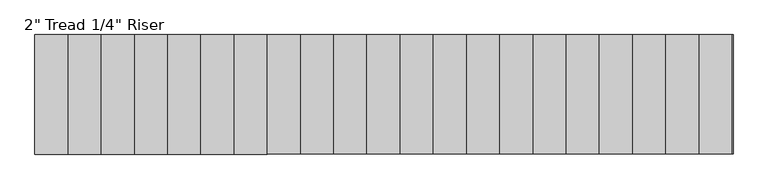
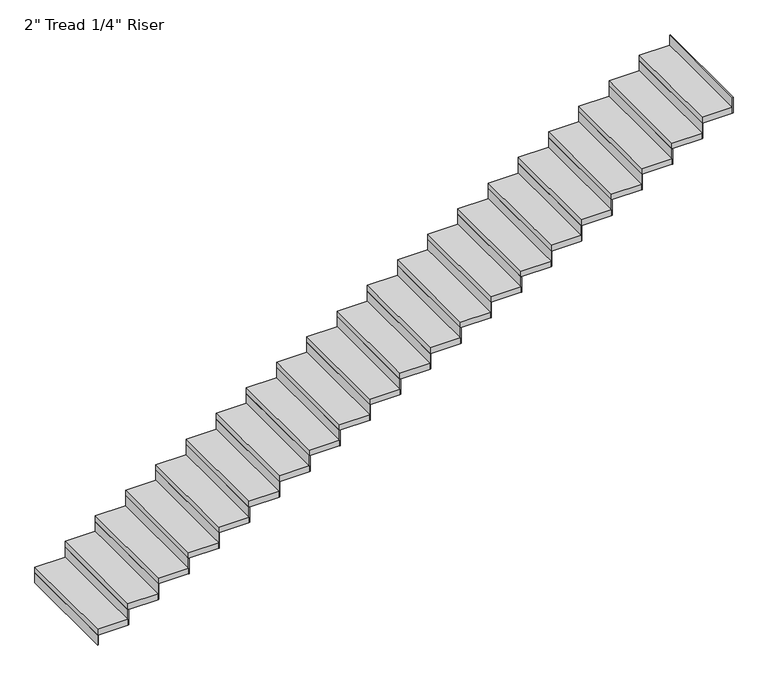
"""IFC4 building model written with IfcOpenShell, lengths in millimetres: stair flight geometry."""

from ifc_helpers import new_model, si_unit, frame, origin, origin_with_axes, place, context, project, spatial, polyline, outline, extrude, source, transform, mapped, element, save


def stair_flight_8bf837ec(model_context):
    return source(origin(), model_context, "Body", "SweptSolid", [
        extrude(outline(polyline([(10185.0667764, -52193.6426165), (10178.7167764, -52193.6426165), (10178.7167764, -51279.2426165), (10185.0667764, -51279.2426165), (10185.0667764, -52193.6426165)])), origin_with_axes(), (0.0, 0.0, 1.0), 87.7454545),
        extrude(outline(polyline([(10432.7167764, -51279.2426165), (10432.7167764, -52193.6426165), (10178.7167764, -52193.6426165), (10178.7167764, -51279.2426165), (10432.7167764, -51279.2426165)])), frame((0.0, 0.0, 87.7454545), z_axis=(0.0, 0.0, 1.0), x_axis=(1.0, 0.0, 0.0)), (0.0, 0.0, 1.0), 50.8),
        extrude(outline(polyline([(10439.0667764, -52193.6426165), (10432.7167764, -52193.6426165), (10432.7167764, -51279.2426165), (10439.0667764, -51279.2426165), (10439.0667764, -52193.6426165)])), frame((0.0, 0.0, 87.7454545), z_axis=(0.0, 0.0, 1.0), x_axis=(1.0, 0.0, 0.0)), (0.0, 0.0, 1.0), 138.5454545),
        extrude(outline(polyline([(10686.7167764, -51279.2426165), (10686.7167764, -52193.6426165), (10432.7167764, -52193.6426165), (10432.7167764, -51279.2426165), (10686.7167764, -51279.2426165)])), frame((0.0, 0.0, 226.2909091), z_axis=(0.0, 0.0, 1.0), x_axis=(1.0, 0.0, 0.0)), (0.0, 0.0, 1.0), 50.8),
        extrude(outline(polyline([(10693.0667764, -52193.6426165), (10686.7167764, -52193.6426165), (10686.7167764, -51279.2426165), (10693.0667764, -51279.2426165), (10693.0667764, -52193.6426165)])), frame((0.0, 0.0, 226.2909091), z_axis=(0.0, 0.0, 1.0), x_axis=(1.0, 0.0, 0.0)), (0.0, 0.0, 1.0), 138.5454545),
        extrude(outline(polyline([(10940.7167764, -51279.2426165), (10940.7167764, -52193.6426165), (10686.7167764, -52193.6426165), (10686.7167764, -51279.2426165), (10940.7167764, -51279.2426165)])), frame((0.0, 0.0, 364.8363636), z_axis=(0.0, 0.0, 1.0), x_axis=(1.0, 0.0, 0.0)), (0.0, 0.0, 1.0), 50.8),
        extrude(outline(polyline([(10947.0667764, -52193.6426165), (10940.7167764, -52193.6426165), (10940.7167764, -51279.2426165), (10947.0667764, -51279.2426165), (10947.0667764, -52193.6426165)])), frame((0.0, 0.0, 364.8363636), z_axis=(0.0, 0.0, 1.0), x_axis=(1.0, 0.0, 0.0)), (0.0, 0.0, 1.0), 138.5454545),
        extrude(outline(polyline([(11194.7167764, -51279.2426165), (11194.7167764, -52193.6426165), (10940.7167764, -52193.6426165), (10940.7167764, -51279.2426165), (11194.7167764, -51279.2426165)])), frame((0.0, 0.0, 503.3818182), z_axis=(0.0, 0.0, 1.0), x_axis=(1.0, 0.0, 0.0)), (0.0, 0.0, 1.0), 50.8),
        extrude(outline(polyline([(11201.0667764, -52193.6426165), (11194.7167764, -52193.6426165), (11194.7167764, -51279.2426165), (11201.0667764, -51279.2426165), (11201.0667764, -52193.6426165)])), frame((0.0, 0.0, 503.3818182), z_axis=(0.0, 0.0, 1.0), x_axis=(1.0, 0.0, 0.0)), (0.0, 0.0, 1.0), 138.5454545),
        extrude(outline(polyline([(11448.7167764, -51279.2426165), (11448.7167764, -52193.6426165), (11194.7167764, -52193.6426165), (11194.7167764, -51279.2426165), (11448.7167764, -51279.2426165)])), frame((0.0, 0.0, 641.9272727), z_axis=(0.0, 0.0, 1.0), x_axis=(1.0, 0.0, 0.0)), (0.0, 0.0, 1.0), 50.8),
        extrude(outline(polyline([(11455.0667764, -52193.6426165), (11448.7167764, -52193.6426165), (11448.7167764, -51279.2426165), (11455.0667764, -51279.2426165), (11455.0667764, -52193.6426165)])), frame((0.0, 0.0, 641.9272727), z_axis=(0.0, 0.0, 1.0), x_axis=(1.0, 0.0, 0.0)), (0.0, 0.0, 1.0), 138.5454545),
        extrude(outline(polyline([(11702.7167764, -51279.2426165), (11702.7167764, -52193.6426165), (11448.7167764, -52193.6426165), (11448.7167764, -51279.2426165), (11702.7167764, -51279.2426165)])), frame((0.0, 0.0, 780.4727273), z_axis=(0.0, 0.0, 1.0), x_axis=(1.0, 0.0, 0.0)), (0.0, 0.0, 1.0), 50.8),
        extrude(outline(polyline([(11709.0667764, -52193.6426165), (11702.7167764, -52193.6426165), (11702.7167764, -51279.2426165), (11709.0667764, -51279.2426165), (11709.0667764, -52193.6426165)])), frame((0.0, 0.0, 780.4727273), z_axis=(0.0, 0.0, 1.0), x_axis=(1.0, 0.0, 0.0)), (0.0, 0.0, 1.0), 138.5454545),
        extrude(outline(polyline([(11956.7167764, -51279.2426165), (11956.7167764, -52193.6426165), (11702.7167764, -52193.6426165), (11702.7167764, -51279.2426165), (11956.7167764, -51279.2426165)])), frame((0.0, 0.0, 919.0181818), z_axis=(0.0, 0.0, 1.0), x_axis=(1.0, 0.0, 0.0)), (0.0, 0.0, 1.0), 50.8),
        extrude(outline(polyline([(11963.0667764, -52193.6426165), (11956.7167764, -52193.6426165), (11956.7167764, -51279.2426165), (11963.0667764, -51279.2426165), (11963.0667764, -52193.6426165)])), frame((0.0, 0.0, 919.0181818), z_axis=(0.0, 0.0, 1.0), x_axis=(1.0, 0.0, 0.0)), (0.0, 0.0, 1.0), 138.5454545),
        extrude(outline(polyline([(12210.7167764, -51279.2426165), (12210.7167764, -52193.6426165), (11956.7167764, -52193.6426165), (11956.7167764, -51279.2426165), (12210.7167764, -51279.2426165)])), frame((0.0, 0.0, 1057.5636364), z_axis=(0.0, 0.0, 1.0), x_axis=(1.0, 0.0, 0.0)), (0.0, 0.0, 1.0), 50.8),
        extrude(outline(polyline([(12217.0667764, -52193.6426165), (12210.7167764, -52193.6426165), (12210.7167764, -51279.2426165), (12217.0667764, -51279.2426165), (12217.0667764, -52193.6426165)])), frame((0.0, 0.0, 1057.5636364), z_axis=(0.0, 0.0, 1.0), x_axis=(1.0, 0.0, 0.0)), (0.0, 0.0, 1.0), 138.5454545),
        extrude(outline(polyline([(12464.7167764, -51279.2426165), (12464.7167764, -52193.6426165), (12210.7167764, -52193.6426165), (12210.7167764, -51279.2426165), (12464.7167764, -51279.2426165)])), frame((0.0, 0.0, 1196.1090909), z_axis=(0.0, 0.0, 1.0), x_axis=(1.0, 0.0, 0.0)), (0.0, 0.0, 1.0), 50.8),
        extrude(outline(polyline([(12471.0667764, -52193.6426165), (12464.7167764, -52193.6426165), (12464.7167764, -51279.2426165), (12471.0667764, -51279.2426165), (12471.0667764, -52193.6426165)])), frame((0.0, 0.0, 1196.1090909), z_axis=(0.0, 0.0, 1.0), x_axis=(1.0, 0.0, 0.0)), (0.0, 0.0, 1.0), 138.5454545),
        extrude(outline(polyline([(12718.7167764, -51279.2426165), (12718.7167764, -52193.6426165), (12464.7167764, -52193.6426165), (12464.7167764, -51279.2426165), (12718.7167764, -51279.2426165)])), frame((0.0, 0.0, 1334.6545455), z_axis=(0.0, 0.0, 1.0), x_axis=(1.0, 0.0, 0.0)), (0.0, 0.0, 1.0), 50.8),
        extrude(outline(polyline([(12725.0667764, -52193.6426165), (12718.7167764, -52193.6426165), (12718.7167764, -51279.2426165), (12725.0667764, -51279.2426165), (12725.0667764, -52193.6426165)])), frame((0.0, 0.0, 1334.6545455), z_axis=(0.0, 0.0, 1.0), x_axis=(1.0, 0.0, 0.0)), (0.0, 0.0, 1.0), 138.5454545),
        extrude(outline(polyline([(12972.7167764, -51279.2426165), (12972.7167764, -52193.6426165), (12718.7167764, -52193.6426165), (12718.7167764, -51279.2426165), (12972.7167764, -51279.2426165)])), frame((0.0, 0.0, 1473.2), z_axis=(0.0, 0.0, 1.0), x_axis=(1.0, 0.0, 0.0)), (0.0, 0.0, 1.0), 50.8),
        extrude(outline(polyline([(12979.0667764, -52193.6426165), (12972.7167764, -52193.6426165), (12972.7167764, -51279.2426165), (12979.0667764, -51279.2426165), (12979.0667764, -52193.6426165)])), frame((0.0, 0.0, 1473.2), z_axis=(0.0, 0.0, 1.0), x_axis=(1.0, 0.0, 0.0)), (0.0, 0.0, 1.0), 138.5454545),
        extrude(outline(polyline([(13226.7167764, -51279.2426165), (13226.7167764, -52193.6426165), (12972.7167764, -52193.6426165), (12972.7167764, -51279.2426165), (13226.7167764, -51279.2426165)])), frame((0.0, 0.0, 1611.7454545), z_axis=(0.0, 0.0, 1.0), x_axis=(1.0, 0.0, 0.0)), (0.0, 0.0, 1.0), 50.8),
        extrude(outline(polyline([(13233.0667764, -52193.6426165), (13226.7167764, -52193.6426165), (13226.7167764, -51279.2426165), (13233.0667764, -51279.2426165), (13233.0667764, -52193.6426165)])), frame((0.0, 0.0, 1611.7454545), z_axis=(0.0, 0.0, 1.0), x_axis=(1.0, 0.0, 0.0)), (0.0, 0.0, 1.0), 138.5454545),
        extrude(outline(polyline([(13480.7167764, -51279.2426165), (13480.7167764, -52193.6426165), (13226.7167764, -52193.6426165), (13226.7167764, -51279.2426165), (13480.7167764, -51279.2426165)])), frame((0.0, 0.0, 1750.2909091), z_axis=(0.0, 0.0, 1.0), x_axis=(1.0, 0.0, 0.0)), (0.0, 0.0, 1.0), 50.8),
        extrude(outline(polyline([(13487.0667764, -52193.6426165), (13480.7167764, -52193.6426165), (13480.7167764, -51279.2426165), (13487.0667764, -51279.2426165), (13487.0667764, -52193.6426165)])), frame((0.0, 0.0, 1750.2909091), z_axis=(0.0, 0.0, 1.0), x_axis=(1.0, 0.0, 0.0)), (0.0, 0.0, 1.0), 138.5454545),
        extrude(outline(polyline([(13734.7167764, -51279.2426165), (13734.7167764, -52193.6426165), (13480.7167764, -52193.6426165), (13480.7167764, -51279.2426165), (13734.7167764, -51279.2426165)])), frame((0.0, 0.0, 1888.8363636), z_axis=(0.0, 0.0, 1.0), x_axis=(1.0, 0.0, 0.0)), (0.0, 0.0, 1.0), 50.8),
        extrude(outline(polyline([(13741.0667764, -52193.6426165), (13734.7167764, -52193.6426165), (13734.7167764, -51279.2426165), (13741.0667764, -51279.2426165), (13741.0667764, -52193.6426165)])), frame((0.0, 0.0, 1888.8363636), z_axis=(0.0, 0.0, 1.0), x_axis=(1.0, 0.0, 0.0)), (0.0, 0.0, 1.0), 138.5454545),
        extrude(outline(polyline([(13988.7167764, -51279.2426165), (13988.7167764, -52193.6426165), (13734.7167764, -52193.6426165), (13734.7167764, -51279.2426165), (13988.7167764, -51279.2426165)])), frame((0.0, 0.0, 2027.3818182), z_axis=(0.0, 0.0, 1.0), x_axis=(1.0, 0.0, 0.0)), (0.0, 0.0, 1.0), 50.8),
        extrude(outline(polyline([(13995.0667764, -52193.6426165), (13988.7167764, -52193.6426165), (13988.7167764, -51279.2426165), (13995.0667764, -51279.2426165), (13995.0667764, -52193.6426165)])), frame((0.0, 0.0, 2027.3818182), z_axis=(0.0, 0.0, 1.0), x_axis=(1.0, 0.0, 0.0)), (0.0, 0.0, 1.0), 138.5454545),
        extrude(outline(polyline([(14242.7167764, -51279.2426165), (14242.7167764, -52193.6426165), (13988.7167764, -52193.6426165), (13988.7167764, -51279.2426165), (14242.7167764, -51279.2426165)])), frame((0.0, 0.0, 2165.9272727), z_axis=(0.0, 0.0, 1.0), x_axis=(1.0, 0.0, 0.0)), (0.0, 0.0, 1.0), 50.8),
        extrude(outline(polyline([(14249.0667764, -52193.6426165), (14242.7167764, -52193.6426165), (14242.7167764, -51279.2426165), (14249.0667764, -51279.2426165), (14249.0667764, -52193.6426165)])), frame((0.0, 0.0, 2165.9272727), z_axis=(0.0, 0.0, 1.0), x_axis=(1.0, 0.0, 0.0)), (0.0, 0.0, 1.0), 138.5454545),
        extrude(outline(polyline([(14496.7167764, -51279.2426165), (14496.7167764, -52193.6426165), (14242.7167764, -52193.6426165), (14242.7167764, -51279.2426165), (14496.7167764, -51279.2426165)])), frame((0.0, 0.0, 2304.4727273), z_axis=(0.0, 0.0, 1.0), x_axis=(1.0, 0.0, 0.0)), (0.0, 0.0, 1.0), 50.8),
        extrude(outline(polyline([(14503.0667764, -52193.6426165), (14496.7167764, -52193.6426165), (14496.7167764, -51279.2426165), (14503.0667764, -51279.2426165), (14503.0667764, -52193.6426165)])), frame((0.0, 0.0, 2304.4727273), z_axis=(0.0, 0.0, 1.0), x_axis=(1.0, 0.0, 0.0)), (0.0, 0.0, 1.0), 138.5454545),
        extrude(outline(polyline([(14750.7167764, -51279.2426165), (14750.7167764, -52193.6426165), (14496.7167764, -52193.6426165), (14496.7167764, -51279.2426165), (14750.7167764, -51279.2426165)])), frame((0.0, 0.0, 2443.0181818), z_axis=(0.0, 0.0, 1.0), x_axis=(1.0, 0.0, 0.0)), (0.0, 0.0, 1.0), 50.8),
        extrude(outline(polyline([(14757.0667764, -52193.6426165), (14750.7167764, -52193.6426165), (14750.7167764, -51279.2426165), (14757.0667764, -51279.2426165), (14757.0667764, -52193.6426165)])), frame((0.0, 0.0, 2443.0181818), z_axis=(0.0, 0.0, 1.0), x_axis=(1.0, 0.0, 0.0)), (0.0, 0.0, 1.0), 138.5454545),
        extrude(outline(polyline([(15004.7167764, -51279.2426165), (15004.7167764, -52193.6426165), (14750.7167764, -52193.6426165), (14750.7167764, -51279.2426165), (15004.7167764, -51279.2426165)])), frame((0.0, 0.0, 2581.5636364), z_axis=(0.0, 0.0, 1.0), x_axis=(1.0, 0.0, 0.0)), (0.0, 0.0, 1.0), 50.8),
        extrude(outline(polyline([(15011.0667764, -52193.6426165), (15004.7167764, -52193.6426165), (15004.7167764, -51279.2426165), (15011.0667764, -51279.2426165), (15011.0667764, -52193.6426165)])), frame((0.0, 0.0, 2581.5636364), z_axis=(0.0, 0.0, 1.0), x_axis=(1.0, 0.0, 0.0)), (0.0, 0.0, 1.0), 138.5454545),
        extrude(outline(polyline([(15258.7167764, -51279.2426165), (15258.7167764, -52193.6426165), (15004.7167764, -52193.6426165), (15004.7167764, -51279.2426165), (15258.7167764, -51279.2426165)])), frame((0.0, 0.0, 2720.1090909), z_axis=(0.0, 0.0, 1.0), x_axis=(1.0, 0.0, 0.0)), (0.0, 0.0, 1.0), 50.8),
        extrude(outline(polyline([(15265.0667764, -52193.6426165), (15258.7167764, -52193.6426165), (15258.7167764, -51279.2426165), (15265.0667764, -51279.2426165), (15265.0667764, -52193.6426165)])), frame((0.0, 0.0, 2720.1090909), z_axis=(0.0, 0.0, 1.0), x_axis=(1.0, 0.0, 0.0)), (0.0, 0.0, 1.0), 138.5454545),
        extrude(outline(polyline([(15519.0667764, -52193.6426165), (15512.7167764, -52193.6426165), (15512.7167764, -51279.2426165), (15519.0667764, -51279.2426165), (15519.0667764, -52193.6426165)])), frame((0.0, 0.0, 2858.6545455), z_axis=(0.0, 0.0, 1.0), x_axis=(1.0, 0.0, 0.0)), (0.0, 0.0, 1.0), 138.5454545),
        extrude(outline(polyline([(15512.7167764, -51279.2426165), (15512.7167764, -52193.6426165), (15258.7167764, -52193.6426165), (15258.7167764, -51279.2426165), (15512.7167764, -51279.2426165)])), frame((0.0, 0.0, 2858.6545455), z_axis=(0.0, 0.0, 1.0), x_axis=(1.0, 0.0, 0.0)), (0.0, 0.0, 1.0), 50.8),
    ])


if __name__ == "__main__":
    model = new_model("IFC4")
    model_context = context("Model", 3, world=origin())
    ifc_project = project(units=[si_unit("LENGTHUNIT", "METRE", prefix="MILLI")], contexts=[model_context])
    site = spatial("IfcSite", under=ifc_project)
    building = spatial("IfcBuilding", under=site)
    placement = place(None, origin())
    stair_flight_shape = stair_flight_8bf837ec(model_context)
    element("IfcStairFlight", 1, ObjectType="2\" Tread 1/4\" Riser", at=placement, inside=building, context=model_context, shape_type="MappedRepresentation", body=[
        mapped(stair_flight_shape, transform((0.0, 0.0, 0.0), x_axis=(1.0, 0.0, 0.0), y_axis=(0.0, 1.0, 0.0), z_axis=(0.0, 0.0, 1.0))),
    ])
    save(model, "model.ifc")
